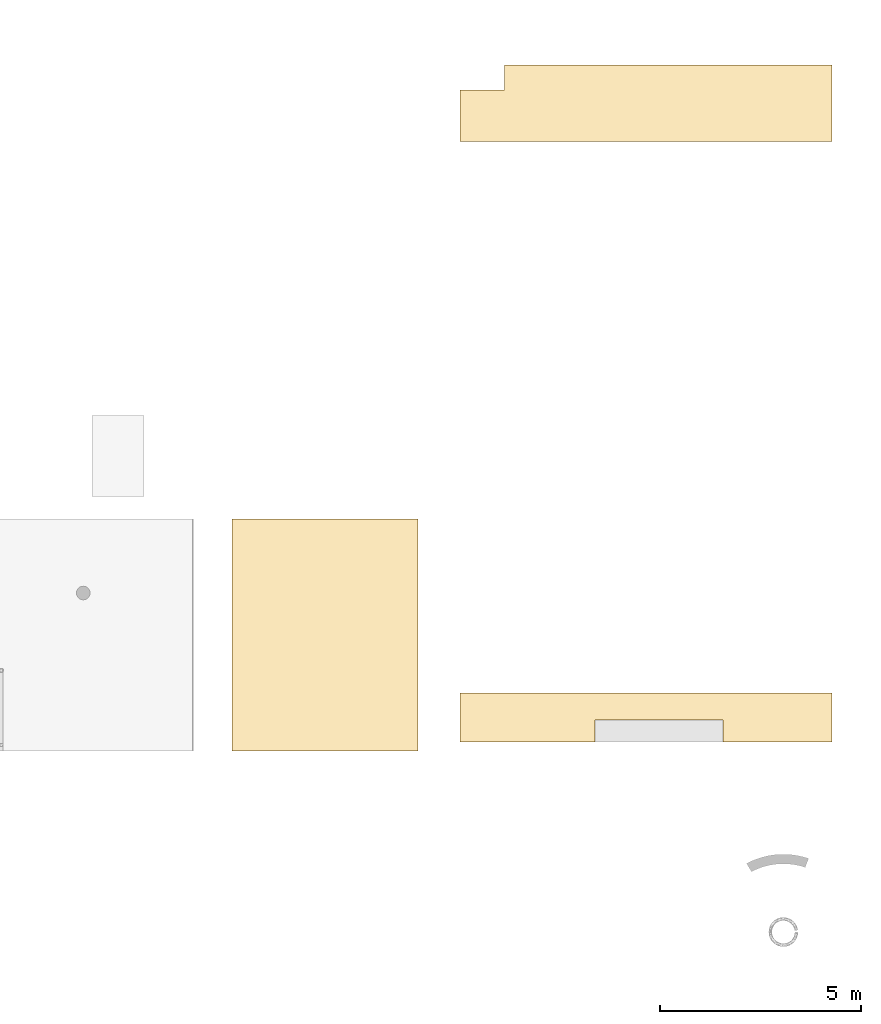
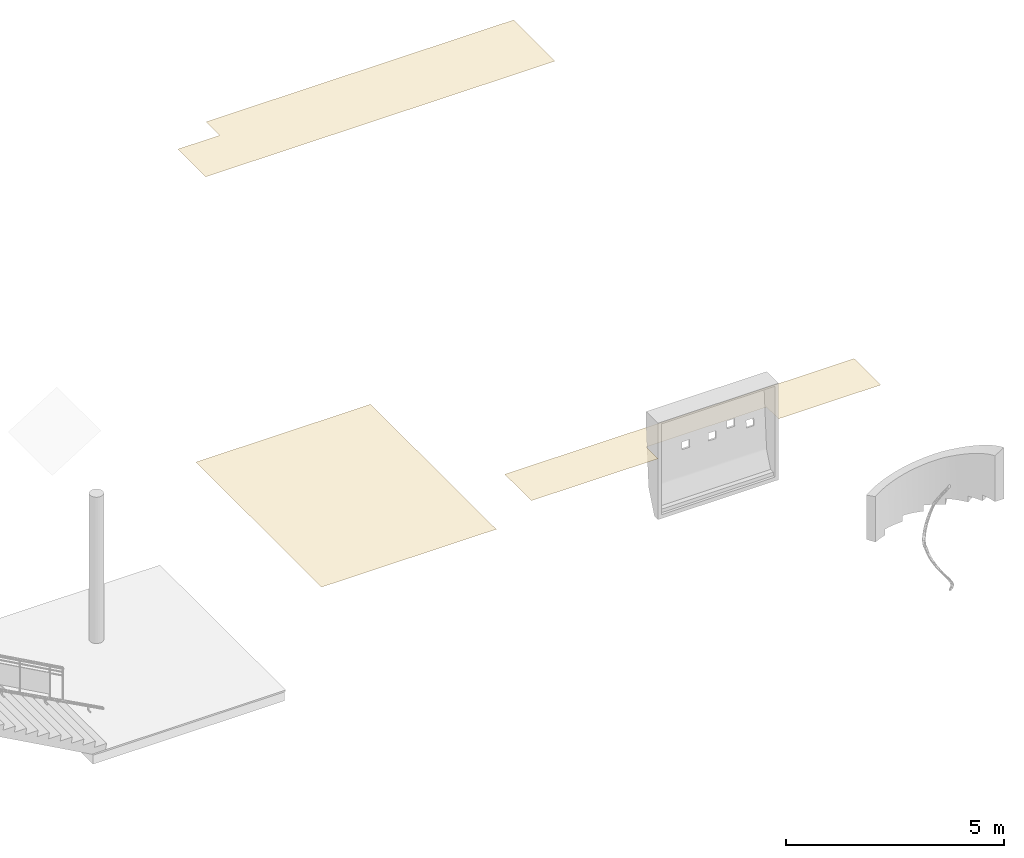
# One storey, part 18 of 19: 3 coverings.
"""IFC4 building model written with IfcOpenShell, lengths in metres."""

import ifcopenshell
import ifcopenshell.guid

model = None  # the IFC model being written
_history = None  # IfcOwnerHistory: only IFC2X3 demands one
_inside = {}  # id of a spatial element -> (the spatial element, [elements in it])
_under = {}  # id of a project, library or spatial element -> (it, [spatial elements below it])
_declared = {}  # id of a project -> (the project, [libraries it declares])
_typed = {}  # id of a type object -> (the type object, [elements of that type])
_made_of = {}  # id of a material, layer set ... -> (it, [elements and type objects made of it])


def new_model(schema):
    """Start an empty IFC model of exactly this schema.

    Asked for "IFC4X3", IfcOpenShell would pick the latest addendum, in which some entities
    have other attributes; the version numbers below select the first issue.
    IFC2X3 requires an IfcOwnerHistory on every rooted entity: one is made here for all.
    """
    global model, _history
    if schema == "IFC4X3":
        model = ifcopenshell.file(schema_version=(4, 3, 0, 0))
    else:
        model = ifcopenshell.file(schema=schema)
    _inside.clear()
    _under.clear()
    _declared.clear()
    _typed.clear()
    _made_of.clear()
    _history = None
    if model.schema == "IFC2X3":
        org = make("IfcOrganization", Name="unknown")
        user = make(
            "IfcPersonAndOrganization",
            ThePerson=make("IfcPerson", FamilyName="unknown"),
            TheOrganization=org,
        )
        app = make(
            "IfcApplication",
            ApplicationDeveloper=org,
            Version="unknown",
            ApplicationFullName="unknown",
            ApplicationIdentifier="unknown",
        )
        _history = make(
            "IfcOwnerHistory",
            OwningUser=user,
            OwningApplication=app,
            ChangeAction="ADDED",
            CreationDate=0,
        )
    return model


def make(cls, **values):
    """One entity of the class cls with the attributes given. An attribute that is None is left unset."""
    return model.create_entity(
        cls, **{name: value for name, value in values.items() if value is not None}
    )


def entity(cls, *values):
    """Any entity or typed value of the class cls, its attributes in the order of the schema. None: left unset."""
    e = model.create_entity(cls)
    for i, value in enumerate(values):
        if value is not None:
            e[i] = value
    return e


def rooted(cls, **values):
    """An entity with a GlobalId (a new one), such as an element, a storey or a relation."""
    return make(cls, GlobalId=ifcopenshell.guid.new(), OwnerHistory=_history, **values)


def si_unit(unit_type, name, prefix=None):
    """IfcSIUnit, for example si_unit("LENGTHUNIT", "METRE", prefix="MILLI")."""
    return make("IfcSIUnit", UnitType=unit_type, Prefix=prefix, Name=name)


def converted_unit(unit_type, name, factor, base, dimensions=None, offset=None):
    """IfcConversionBasedUnit, such as the inch: factor (a typed value) times the base unit."""
    return make(
        "IfcConversionBasedUnit"
        if offset is None
        else "IfcConversionBasedUnitWithOffset",
        ConversionOffset=offset,
        Dimensions=None
        if dimensions is None
        else entity("IfcDimensionalExponents", *dimensions),
        UnitType=unit_type,
        Name=name,
        ConversionFactor=make(
            "IfcMeasureWithUnit", ValueComponent=factor, UnitComponent=base
        ),
    )


def derived_unit(unit_type, elements):
    """IfcDerivedUnit: a product of units, each with its exponent."""
    return make(
        "IfcDerivedUnit",
        Elements=[
            make("IfcDerivedUnitElement", Unit=unit, Exponent=power)
            for unit, power in elements
        ],
        UnitType=unit_type,
    )


def assignment(units):
    """IfcUnitAssignment: the units of a project."""
    return None if units is None else make("IfcUnitAssignment", Units=units)


def point(xyz):
    """IfcCartesianPoint."""
    return None if xyz is None else make("IfcCartesianPoint", Coordinates=xyz)


def direction(xyz):
    """IfcDirection."""
    return None if xyz is None else make("IfcDirection", DirectionRatios=xyz)


def frame(location, z_axis=None, x_axis=None):
    """IfcAxis2Placement3D, a coordinate frame: its origin and axes. An axis left out is left unset."""
    return make(
        "IfcAxis2Placement3D",
        Location=point(location),
        Axis=direction(z_axis),
        RefDirection=direction(x_axis),
    )


def origin():
    """The frame at (0, 0, 0) with its axes left unset."""
    return frame((0.0, 0.0, 0.0))


def place(relative_to, where):
    """IfcLocalPlacement: puts the frame where relative to a parent placement (None: the world)."""
    return make(
        "IfcLocalPlacement", PlacementRelTo=relative_to, RelativePlacement=where
    )


def context(
    kind, dimensions, precision=None, world=None, true_north=None, identifier=None
):
    """IfcGeometricRepresentationContext, for example the 3D "Model" context."""
    return make(
        "IfcGeometricRepresentationContext",
        ContextIdentifier=identifier,
        ContextType=kind,
        CoordinateSpaceDimension=dimensions,
        Precision=precision,
        WorldCoordinateSystem=world,
        TrueNorth=true_north,
    )


def subcontext(parent, identifier, kind, view, scale=None):
    """IfcGeometricRepresentationSubContext, for example "Body" below "Model"."""
    return make(
        "IfcGeometricRepresentationSubContext",
        ContextIdentifier=identifier,
        ContextType=kind,
        ParentContext=parent,
        TargetScale=scale,
        TargetView=view,
    )


def project(units=None, contexts=None):
    """IfcProject with its units and contexts."""
    return rooted(
        "IfcProject",
        Name="project",
        RepresentationContexts=contexts,
        UnitsInContext=assignment(units),
    )


def spatial(cls, under=None, at=None, **own):
    """A site, building, storey or space (cls), placed at a placement, below another one or the project."""
    s = rooted(cls, ObjectPlacement=at, **own)
    if under is not None:
        _under.setdefault(under.id(), (under, []))[1].append(s)
    return s


def point_list(points):
    """IfcCartesianPointList2D or 3D."""
    cls = (
        "IfcCartesianPointList2D" if len(points[0]) == 2 else "IfcCartesianPointList3D"
    )
    return make(cls, CoordList=points)


def polygons(points, faces, closed=None, point_numbers=None):
    """IfcPolygonalFaceSet: a face is its outer loop, then its inner loops; points numbered from 1."""
    made = []
    for loops in faces:
        if len(loops) == 1:
            made.append(make("IfcIndexedPolygonalFace", CoordIndex=loops[0]))
        else:
            made.append(
                make(
                    "IfcIndexedPolygonalFaceWithVoids",
                    CoordIndex=loops[0],
                    InnerCoordIndices=loops[1:],
                )
            )
    return make(
        "IfcPolygonalFaceSet",
        Coordinates=point_list(points),
        Closed=closed,
        Faces=made,
        PnIndex=point_numbers,
    )


def shape(context_of_items, identifier, shape_type, items):
    """IfcShapeRepresentation: the items that make up one representation, for example the "Body"."""
    return make(
        "IfcShapeRepresentation",
        ContextOfItems=context_of_items,
        RepresentationIdentifier=identifier,
        RepresentationType=shape_type,
        Items=items,
    )


def material(Name=None, Category=None):
    """IfcMaterial."""
    return make("IfcMaterial", Name=Name, Category=Category)


def layer(
    of_material, thickness, ventilated=None, Name=None, Category=None, Priority=None
):
    """IfcMaterialLayer: one layer of a wall or slab, of a material (None: an air gap)."""
    return make(
        "IfcMaterialLayer",
        Material=of_material,
        LayerThickness=thickness,
        IsVentilated=ventilated,
        Name=Name,
        Category=Category,
        Priority=Priority,
    )


def layer_set(layers, Name=None):
    """IfcMaterialLayerSet."""
    return make("IfcMaterialLayerSet", MaterialLayers=layers, LayerSetName=Name)


def made_of(thing, what):
    """Note that an element or type object is made of a material, layer set ...; save() writes the relation."""
    if what is not None:
        _made_of.setdefault(what.id(), (what, []))[1].append(thing)
    return thing


def type_object(cls, material=None, **own):
    """A type object (cls), such as IfcWallType, which elements share."""
    return made_of(rooted(cls, **own), material)


def element(
    cls,
    number,
    at=None,
    inside=None,
    cuts=None,
    type_object=None,
    material=None,
    context=None,
    identifier="Body",
    shape_type=None,
    held_by="IfcProductDefinitionShape",
    body=None,
    shapes=None,
    **own,
):
    """One element of the class cls, such as IfcWall. Its Tag is "e" and its number.

    at: its placement. inside: the storey or other place that contains it. cuts: it is an
    opening in that element (IfcRelVoidsElement). A single representation is given by context,
    identifier, shape_type and body (its items); several are given by shapes. held_by: the class
    of the entity that holds the representations. save() writes the other relations.
    """
    e = rooted(cls, Tag="e%d" % number, ObjectPlacement=at, **own)
    if body is not None:
        shapes = [shape(context, identifier, shape_type, body)]
    if shapes is not None:
        e.Representation = make(held_by, Representations=shapes)
    if inside is not None:
        _inside.setdefault(inside.id(), (inside, []))[1].append(e)
    if cuts is not None:
        rooted(
            "IfcRelVoidsElement", RelatingBuildingElement=cuts, RelatedOpeningElement=e
        )
    if type_object is not None:
        _typed.setdefault(type_object.id(), (type_object, []))[1].append(e)
    return made_of(e, material)


def aggregate(whole, parts):
    """IfcRelAggregates: a whole, such as a stair, and the parts it consists of."""
    return rooted("IfcRelAggregates", RelatingObject=whole, RelatedObjects=parts)


def save(model, path):
    """Write the relations noted so far, then the file.

    IfcRelAggregates (storeys below a building ...), IfcRelContainedInSpatialStructure (elements
    in a storey), IfcRelDefinesByType, IfcRelAssociatesMaterial and IfcRelDeclares: one each for
    every whole, place, type object, material and project.
    """
    for whole, parts in _under.values():
        aggregate(whole, parts)
    for where, things in _inside.values():
        rooted(
            "IfcRelContainedInSpatialStructure",
            RelatedElements=things,
            RelatingStructure=where,
        )
    for kind, things in _typed.values():
        rooted("IfcRelDefinesByType", RelatedObjects=things, RelatingType=kind)
    for what, things in _made_of.values():
        rooted("IfcRelAssociatesMaterial", RelatedObjects=things, RelatingMaterial=what)
    for by, libraries in _declared.values():
        rooted("IfcRelDeclares", RelatingContext=by, RelatedDefinitions=libraries)
    model.write(path)


model = new_model("IFC4")

# Units and contexts
model_context = context("Model", 3, precision=1e-05, world=origin(), true_north=direction((6.12303176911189e-17, 1.0)))
body_context = subcontext(model_context, "Body", "Model", "MODEL_VIEW")
ifc_project = project(units=[si_unit("LENGTHUNIT", "METRE"), si_unit("AREAUNIT", "SQUARE_METRE"), si_unit("VOLUMEUNIT", "CUBIC_METRE"), converted_unit("PLANEANGLEUNIT", "DEGREE", entity("IfcRatioMeasure", 0.0174532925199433), si_unit("PLANEANGLEUNIT", "RADIAN"), dimensions=[0, 0, 0, 0, 0, 0, 0]), si_unit("MASSUNIT", "GRAM", prefix="KILO"), derived_unit("MASSDENSITYUNIT", [(si_unit("MASSUNIT", "GRAM", prefix="KILO"), 1), (si_unit("LENGTHUNIT", "METRE"), -3)]), derived_unit("MOMENTOFINERTIAUNIT", [(si_unit("LENGTHUNIT", "METRE"), 4)]), si_unit("TIMEUNIT", "SECOND"), si_unit("FREQUENCYUNIT", "HERTZ"), si_unit("THERMODYNAMICTEMPERATUREUNIT", "DEGREE_CELSIUS"), derived_unit("THERMALTRANSMITTANCEUNIT", [(si_unit("MASSUNIT", "GRAM", prefix="KILO"), 1), (si_unit("THERMODYNAMICTEMPERATUREUNIT", "KELVIN"), -1), (si_unit("TIMEUNIT", "SECOND"), -3)]), derived_unit("VOLUMETRICFLOWRATEUNIT", [(si_unit("LENGTHUNIT", "METRE"), 3), (si_unit("TIMEUNIT", "SECOND"), -1)]), si_unit("ELECTRICCURRENTUNIT", "AMPERE"), si_unit("ELECTRICVOLTAGEUNIT", "VOLT"), si_unit("POWERUNIT", "WATT"), si_unit("FORCEUNIT", "NEWTON", prefix="KILO"), si_unit("ILLUMINANCEUNIT", "LUX"), si_unit("LUMINOUSFLUXUNIT", "LUMEN"), si_unit("LUMINOUSINTENSITYUNIT", "CANDELA"), derived_unit("USERDEFINED", [(si_unit("MASSUNIT", "GRAM", prefix="KILO"), -1), (si_unit("LENGTHUNIT", "METRE"), -2), (si_unit("TIMEUNIT", "SECOND"), 3), (si_unit("LUMINOUSFLUXUNIT", "LUMEN"), 1)]), derived_unit("LINEARVELOCITYUNIT", [(si_unit("LENGTHUNIT", "METRE"), 1), (si_unit("TIMEUNIT", "SECOND"), -1)]), si_unit("PRESSUREUNIT", "PASCAL"), derived_unit("USERDEFINED", [(si_unit("LENGTHUNIT", "METRE"), -2), (si_unit("MASSUNIT", "GRAM", prefix="KILO"), 1), (si_unit("TIMEUNIT", "SECOND"), -2)]), derived_unit("LINEARFORCEUNIT", [(si_unit("MASSUNIT", "GRAM", prefix="KILO"), 1), (si_unit("LENGTHUNIT", "METRE"), 1), (si_unit("TIMEUNIT", "SECOND"), -2), (si_unit("LENGTHUNIT", "METRE"), -1)]), derived_unit("PLANARFORCEUNIT", [(si_unit("MASSUNIT", "GRAM", prefix="KILO"), 1), (si_unit("LENGTHUNIT", "METRE"), 1), (si_unit("TIMEUNIT", "SECOND"), -2), (si_unit("LENGTHUNIT", "METRE"), -2)])], contexts=[model_context])

# Site, building, storey
site_placement = place(None, origin())
site = spatial("IfcSite", under=ifc_project, at=site_placement, Name="Default", CompositionType="ELEMENT")
building_placement = place(site_placement, origin())
building = spatial("IfcBuilding", under=site, at=building_placement, Name="HOTEL CONSULAIRE BOULOGNE SUR MER", CompositionType="ELEMENT")
storey_placement = place(building_placement, frame((0.0, 0.0, -4.01003075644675)))
storey = spatial("IfcBuildingStorey", under=building, at=storey_placement, Name="SS2", CompositionType="ELEMENT", Elevation=-4.01003075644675)

# Coverings
ifc_material = material(Name="Faux-plafond - Trame 600 x 600", Category="Divers")
ifc_layer = layer(ifc_material, 0.0, Name="Faux-plafond - Trame 600 x 600", Category="Divers")
ifc_layer_set = layer_set([ifc_layer], Name="Plafond de base:Plafond 600 mm x 1200 mm")
covering_type_1 = type_object("IfcCoveringType", Name="Plafond de base:Plafond 600 mm x 1200 mm", PredefinedType="CEILING")
covering_1_placement = place(storey_placement, frame((12.3592268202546, -27.7238231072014, 2.48859407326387)))
element("IfcCovering", 1, at=covering_1_placement, inside=storey, type_object=covering_type_1, material=ifc_layer_set, Name="Plafond de base:Plafond 600 mm x 1200 mm", ObjectType="Plafond de base:Plafond 600 mm x 1200 mm", PredefinedType="CEILING", context=body_context, shape_type="Tessellation", body=[
    polygons([(2.16573425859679e-15, 1.21907633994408, 0.0), (0.0, 5.63090907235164e-14, 0.0), (3.3578084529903, 3.89832166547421e-14, 0.0), (3.3578084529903, 0.543243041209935, 0.0), (6.55010816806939, 0.543243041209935, 0.0), (6.55010816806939, 2.16573425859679e-14, 0.0), (9.26083365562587, 4.33146851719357e-15, 0.0), (9.26083365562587, 1.21907633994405, 0.0)], [[[2, 3, 4, 5, 6, 7, 8, 1]]], closed=True),
])
covering_type_2 = type_object("IfcCoveringType", Name="Plafond de base:Plafond 600 mm x 1200 mm", PredefinedType="CEILING")
covering_2_placement = place(storey_placement, frame((12.3592268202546, -12.7705329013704, 2.49659407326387)))
element("IfcCovering", 2, at=covering_2_placement, inside=storey, type_object=covering_type_2, material=ifc_layer_set, Name="Plafond de base:Plafond 600 mm x 1200 mm", ObjectType="Plafond de base:Plafond 600 mm x 1200 mm", PredefinedType="CEILING", context=body_context, shape_type="Tessellation", body=[
    polygons([(4.33146851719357e-15, 1.27785327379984, 0.0), (2.16573425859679e-15, 0.0, 0.0), (9.26083365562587, 0.0, 0.0), (9.26083365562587, 1.90221971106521, 0.0), (1.10852915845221, 1.90221971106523, 0.0), (1.10852915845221, 1.27785327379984, 0.0)], [[[6, 1, 2, 3, 4, 5]]], closed=True),
])
covering_type_3 = type_object("IfcCoveringType", Name="Plafond de base:Plafond 600 mm x 1200 mm", PredefinedType="CEILING")
covering_3_placement = place(storey_placement, frame((6.67113712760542, -27.9462737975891, 2.19250456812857)))
element("IfcCovering", 3, at=covering_3_placement, inside=storey, type_object=covering_type_3, material=ifc_layer_set, Name="Plafond de base:Plafond 600 mm x 1200 mm", ObjectType="Plafond de base:Plafond 600 mm x 1200 mm", PredefinedType="CEILING", context=body_context, shape_type="Tessellation", body=[
    polygons([(4.63108969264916, 0.0, 0.0), (4.63108969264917, 5.77589604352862, 0.0), (6.49720277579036e-15, 5.77589604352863, 0.0), (-1.08286712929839e-15, 1.29944055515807e-14, 0.0)], [[[3, 4, 1, 2]]], closed=True),
])

save(model, "model.ifc")
